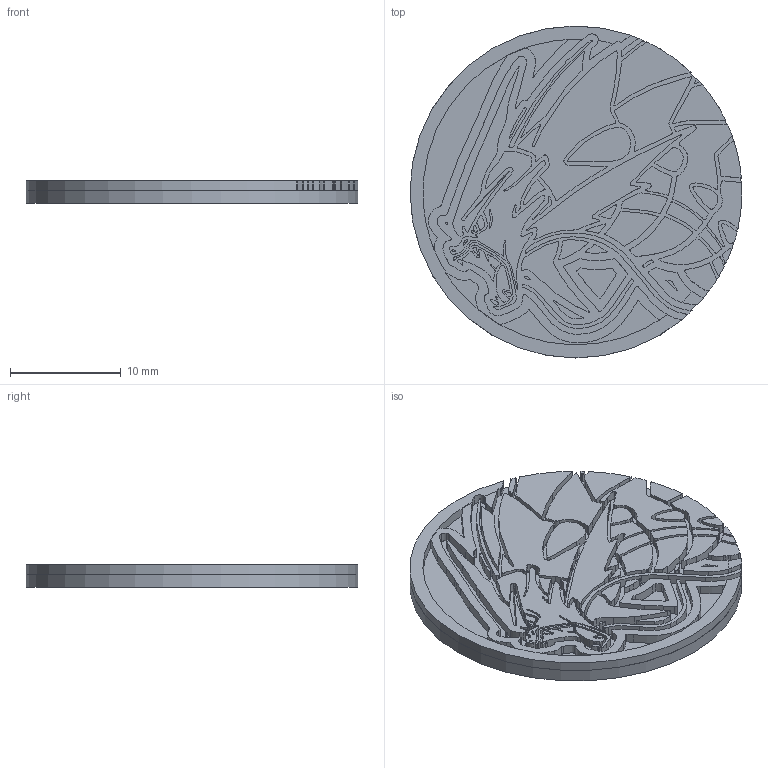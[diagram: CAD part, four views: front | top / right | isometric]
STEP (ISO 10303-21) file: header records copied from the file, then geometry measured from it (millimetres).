
FILE_DESCRIPTION(/* description */ (''),/* implementation_level */ '2;1');
FILE_NAME(/* name */ 'MegaGyaradosSTEP.step',/* time_stamp */ '2025-12-11T15:39:34+09:00',/* author */ (''),/* organization */ (''),/* preprocessor_version */ 'ST-DEVELOPER v20.1',/* originating_system */ 'Autodesk Translation Framework v14.21.0.0',/* authorisation */ '');
FILE_SCHEMA (('AUTOMOTIVE_DESIGN { 1 0 10303 214 3 1 1 }'));
Products named in the file (14): MegaGyarados; Skin; Crest,Belly; RedMarkings; Fins; Whiskers; Tongue; MouthInside; Fangs; Lips; Iris; EyeWhites; MegaGyaradosBorder; OuterBorder
Assembly tree (13 placements, depth 2):
  MegaGyarados
    Skin
    Crest,Belly
    RedMarkings
    Fins
    Whiskers
    Tongue
    MouthInside
    Fangs
    Lips
    Iris
    EyeWhites
    MegaGyaradosBorder
    OuterBorder
Bounding box: 30 x 30 x 2 mm (x, y, z)
Volume: 1119.8 mm3; surface area: 3548.3 mm2
Topology: 59 solids, 59 shells, 1604 faces, 4374 edges, 2916 vertices
Faces by surface type: bspline 1347, plane 229, cylinder 28
Full cylindrical faces by diameter (mm): 30 x1
Entity records: 54088 total; most frequent: CARTESIAN_POINT 26432, ORIENTED_EDGE 8748, EDGE_CURVE 4374, VERTEX_POINT 2916, DIRECTION 2304, EDGE_LOOP 1642, LINE 1624, VECTOR 1624
